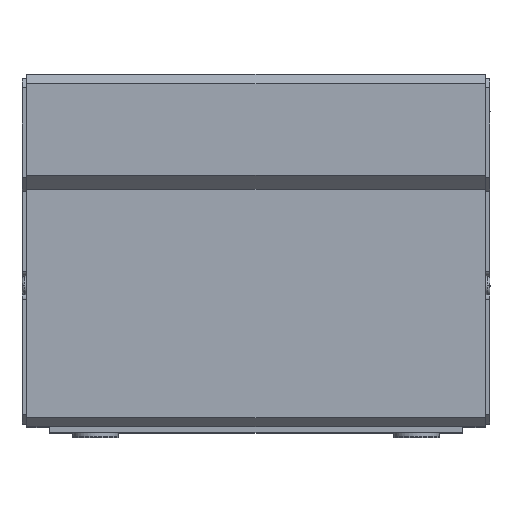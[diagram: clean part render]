
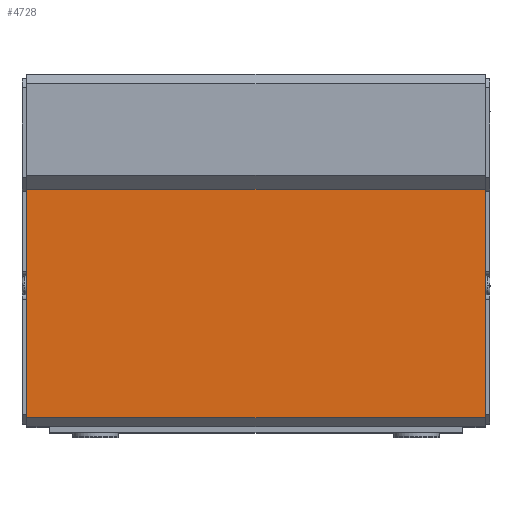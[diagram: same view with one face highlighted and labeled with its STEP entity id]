
A CAD part, top view. The second image highlights one B-rep face of the part: STEP entity #4728.
In plain terms, the highlighted planar face has unit normal (0, 0, 1).
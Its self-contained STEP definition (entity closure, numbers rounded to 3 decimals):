
#21 = CARTESIAN_POINT ( 'NONE',  ( 25., -14.4, 22.5 ) ) ;
#140 = ORIENTED_EDGE ( 'NONE', *, *, #1616, .F. ) ;
#277 = VECTOR ( 'NONE', #5818, 1000. ) ;
#312 = EDGE_CURVE ( 'NONE', #7394, #1659, #8442, .T. ) ;
#356 = VECTOR ( 'NONE', #2138, 1000. ) ;
#687 = EDGE_LOOP ( 'NONE', ( #5330, #140, #8762, #7362 ) ) ;
#1248 = EDGE_CURVE ( 'NONE', #2602, #7394, #9193, .T. ) ;
#1392 = CARTESIAN_POINT ( 'NONE',  ( 25., 10.5, 22.5 ) ) ;
#1616 = EDGE_CURVE ( 'NONE', #6425, #1659, #3187, .T. ) ;
#1659 = VERTEX_POINT ( 'NONE', #3587 ) ;
#2138 = DIRECTION ( 'NONE',  ( -1., 0., 0. ) ) ;
#2288 = VECTOR ( 'NONE', #4380, 1000. ) ;
#2344 = CARTESIAN_POINT ( 'NONE',  ( 25., 10.5, 22.5 ) ) ;
#2592 = FACE_OUTER_BOUND ( 'NONE', #687, .T. ) ;
#2602 = VERTEX_POINT ( 'NONE', #5043 ) ;
#2662 = DIRECTION ( 'NONE',  ( 0., -1., 0. ) ) ;
#3187 = LINE ( 'NONE', #21, #356 ) ;
#3442 = CARTESIAN_POINT ( 'NONE',  ( 25., 10.5, 22.5 ) ) ;
#3512 = CARTESIAN_POINT ( 'NONE',  ( -25., 10.5, 22.5 ) ) ;
#3587 = CARTESIAN_POINT ( 'NONE',  ( -25., -14.4, 22.5 ) ) ;
#3602 = LINE ( 'NONE', #3442, #5169 ) ;
#4218 = EDGE_CURVE ( 'NONE', #2602, #6425, #3602, .T. ) ;
#4380 = DIRECTION ( 'NONE',  ( -1., 0., 0. ) ) ;
#4616 = DIRECTION ( 'NONE',  ( -1., 0., 0. ) ) ;
#4728 = ADVANCED_FACE ( 'NONE', ( #2592 ), #5194, .F. ) ;
#5043 = CARTESIAN_POINT ( 'NONE',  ( 25., 10.5, 22.5 ) ) ;
#5169 = VECTOR ( 'NONE', #2662, 1000. ) ;
#5194 = PLANE ( 'NONE',  #6857 ) ;
#5330 = ORIENTED_EDGE ( 'NONE', *, *, #312, .T. ) ;
#5387 = CARTESIAN_POINT ( 'NONE',  ( 25., -14.4, 22.5 ) ) ;
#5818 = DIRECTION ( 'NONE',  ( 0., -1., 0. ) ) ;
#6425 = VERTEX_POINT ( 'NONE', #5387 ) ;
#6857 = AXIS2_PLACEMENT_3D ( 'NONE', #2344, #8041, #4616 ) ;
#7205 = CARTESIAN_POINT ( 'NONE',  ( -25., 10.5, 22.5 ) ) ;
#7362 = ORIENTED_EDGE ( 'NONE', *, *, #1248, .T. ) ;
#7394 = VERTEX_POINT ( 'NONE', #3512 ) ;
#8041 = DIRECTION ( 'NONE',  ( 0., 0., -1. ) ) ;
#8442 = LINE ( 'NONE', #7205, #277 ) ;
#8762 = ORIENTED_EDGE ( 'NONE', *, *, #4218, .F. ) ;
#9193 = LINE ( 'NONE', #1392, #2288 ) ;
